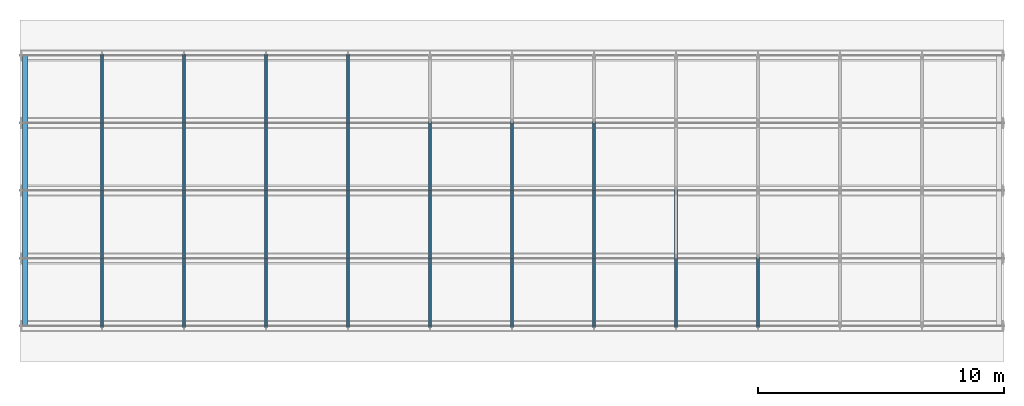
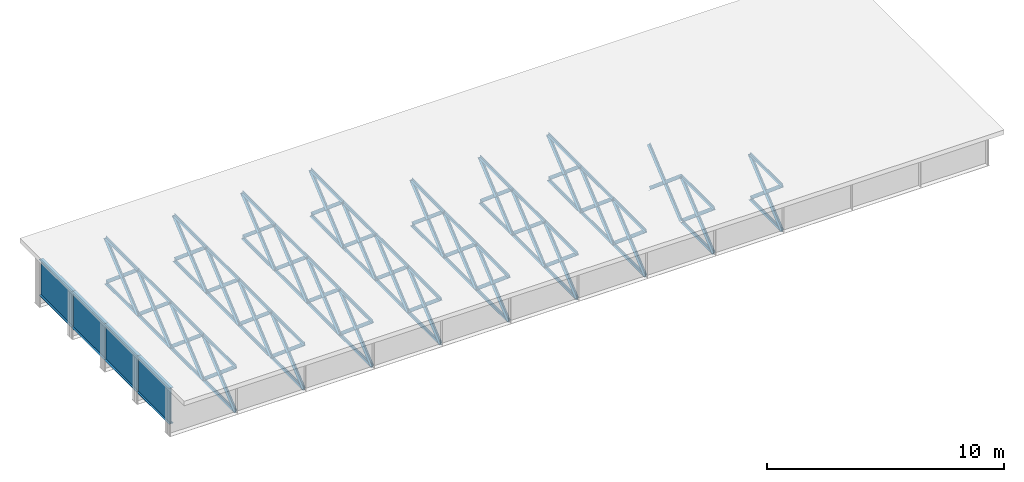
# One storey, part 1 of 19: 114 members.
"""IFC4 building model written with IfcOpenShell, lengths in metres."""

from ifc_helpers import new_model, si_unit, frame, origin, origin_with_axes, origin_2d_with_axis, place, context, subcontext, project, spatial, i_section, l_section, extrude, element, save


model = new_model("IFC4")

# Units and contexts
model_context = context("Model", 3, precision=1e-05, world=origin())
body_context = subcontext(model_context, "Body", "Model", "MODEL_VIEW")
ifc_project = project(units=[si_unit("LENGTHUNIT", "METRE"), si_unit("AREAUNIT", "SQUARE_METRE"), si_unit("VOLUMEUNIT", "CUBIC_METRE"), si_unit("PLANEANGLEUNIT", "RADIAN")], contexts=[model_context])

# Site, building, storey
site_placement = place(None, origin_with_axes())
site = spatial("IfcSite", under=ifc_project, at=site_placement, Name="Default Site")
building_placement = place(site_placement, origin_with_axes())
building = spatial("IfcBuilding", under=site, at=building_placement, Name="Bridge Structure")
storey_placement = place(building_placement, origin_with_axes())
storey = spatial("IfcBuildingStorey", under=building, at=storey_placement, Name="Superstructure")

# Members
for number, where, z_axis, x_axis, name in (
    (1, (0.2, -5.5, 0.2315), (0.0, 1.0, 0.0), (-1.0, 0.0, 0.0), "End Diaphragm"),
    (2, (0.2, -2.75, 0.2315), (0.0, 1.0, 0.0), (-1.0, 0.0, 0.0), "End Diaphragm"),
    (3, (0.2, 0.0, 0.2315), (0.0, 1.0, 0.0), (-1.0, 0.0, 0.0), "End Diaphragm"),
    (4, (0.2, 2.75, 0.2315), (0.0, 1.0, 0.0), (-1.0, 0.0, 0.0), "End Diaphragm"),
):
    element("IfcMember", number, at=place(storey_placement, frame(where, z_axis=z_axis, x_axis=x_axis)), inside=storey, Name=name, context=body_context, shape_type="SweptSolid", body=[
        extrude(i_section(OverallWidth=0.21, OverallDepth=1.851, WebThickness=0.016, FlangeThickness=0.012, at=origin_2d_with_axis()), origin_with_axes(), (0.0, 0.0, 1.0), 2.75),
    ])
for number, where, z_axis, x_axis, name in (
    (5, (3.3333333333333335, -5.5, 1.157), (0.0, 0.765156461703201, -0.6438443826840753), (-1.0, 0.0, 0.0), "Diagonal Brace"),
    (6, (3.3333333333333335, -5.5, -1.157), (0.0, 0.765156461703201, 0.6438443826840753), (-1.0, 0.0, 0.0), "Diagonal Brace"),
):
    element("IfcMember", number, at=place(storey_placement, frame(where, z_axis=z_axis, x_axis=x_axis)), inside=storey, Name=name, context=body_context, shape_type="SweptSolid", body=[
        extrude(l_section(Depth=0.17300000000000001, Width=0.115, Thickness=0.008, at=origin_2d_with_axis()), origin_with_axes(), (0.0, 0.0, 1.0), 3.594036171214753),
    ])
for number, where, z_axis, x_axis, name in (
    (7, (3.3333333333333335, -5.5, -1.157), (0.0, 1.0, 0.0), (-1.0, 0.0, 0.0), "Bottom Chord"),
    (8, (3.3333333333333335, -5.5, 1.157), (0.0, 1.0, 0.0), (-1.0, 0.0, 0.0), "Top Chord"),
):
    element("IfcMember", number, at=place(storey_placement, frame(where, z_axis=z_axis, x_axis=x_axis)), inside=storey, Name=name, context=body_context, shape_type="SweptSolid", body=[
        extrude(l_section(Depth=0.15, Width=0.092, Thickness=0.008, at=origin_2d_with_axis()), origin_with_axes(), (0.0, 0.0, 1.0), 2.75),
    ])
for number, where, z_axis, x_axis, name in (
    (9, (3.3333333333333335, -2.75, 1.157), (0.0, 0.765156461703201, -0.6438443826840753), (-1.0, 0.0, 0.0), "Diagonal Brace"),
    (10, (3.3333333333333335, -2.75, -1.157), (0.0, 0.765156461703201, 0.6438443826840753), (-1.0, 0.0, 0.0), "Diagonal Brace"),
):
    element("IfcMember", number, at=place(storey_placement, frame(where, z_axis=z_axis, x_axis=x_axis)), inside=storey, Name=name, context=body_context, shape_type="SweptSolid", body=[
        extrude(l_section(Depth=0.17300000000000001, Width=0.115, Thickness=0.008, at=origin_2d_with_axis()), origin_with_axes(), (0.0, 0.0, 1.0), 3.594036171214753),
    ])
for number, where, z_axis, x_axis, name in (
    (11, (3.3333333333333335, -2.75, -1.157), (0.0, 1.0, 0.0), (-1.0, 0.0, 0.0), "Bottom Chord"),
    (12, (3.3333333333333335, -2.75, 1.157), (0.0, 1.0, 0.0), (-1.0, 0.0, 0.0), "Top Chord"),
):
    element("IfcMember", number, at=place(storey_placement, frame(where, z_axis=z_axis, x_axis=x_axis)), inside=storey, Name=name, context=body_context, shape_type="SweptSolid", body=[
        extrude(l_section(Depth=0.15, Width=0.092, Thickness=0.008, at=origin_2d_with_axis()), origin_with_axes(), (0.0, 0.0, 1.0), 2.75),
    ])
for number, where, z_axis, x_axis, name in (
    (13, (3.3333333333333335, 0.0, 1.157), (0.0, 0.765156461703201, -0.6438443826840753), (-1.0, 0.0, 0.0), "Diagonal Brace"),
    (14, (3.3333333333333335, 0.0, -1.157), (0.0, 0.765156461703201, 0.6438443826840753), (-1.0, 0.0, 0.0), "Diagonal Brace"),
):
    element("IfcMember", number, at=place(storey_placement, frame(where, z_axis=z_axis, x_axis=x_axis)), inside=storey, Name=name, context=body_context, shape_type="SweptSolid", body=[
        extrude(l_section(Depth=0.17300000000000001, Width=0.115, Thickness=0.008, at=origin_2d_with_axis()), origin_with_axes(), (0.0, 0.0, 1.0), 3.594036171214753),
    ])
for number, where, z_axis, x_axis, name in (
    (15, (3.3333333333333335, 0.0, -1.157), (0.0, 1.0, 0.0), (-1.0, 0.0, 0.0), "Bottom Chord"),
    (16, (3.3333333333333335, 0.0, 1.157), (0.0, 1.0, 0.0), (-1.0, 0.0, 0.0), "Top Chord"),
):
    element("IfcMember", number, at=place(storey_placement, frame(where, z_axis=z_axis, x_axis=x_axis)), inside=storey, Name=name, context=body_context, shape_type="SweptSolid", body=[
        extrude(l_section(Depth=0.15, Width=0.092, Thickness=0.008, at=origin_2d_with_axis()), origin_with_axes(), (0.0, 0.0, 1.0), 2.75),
    ])
for number, where, z_axis, x_axis, name in (
    (17, (3.3333333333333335, 2.75, 1.157), (0.0, 0.765156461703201, -0.6438443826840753), (-1.0, 0.0, 0.0), "Diagonal Brace"),
    (18, (3.3333333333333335, 2.75, -1.157), (0.0, 0.765156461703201, 0.6438443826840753), (-1.0, 0.0, 0.0), "Diagonal Brace"),
):
    element("IfcMember", number, at=place(storey_placement, frame(where, z_axis=z_axis, x_axis=x_axis)), inside=storey, Name=name, context=body_context, shape_type="SweptSolid", body=[
        extrude(l_section(Depth=0.17300000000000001, Width=0.115, Thickness=0.008, at=origin_2d_with_axis()), origin_with_axes(), (0.0, 0.0, 1.0), 3.594036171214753),
    ])
for number, where, z_axis, x_axis, name in (
    (19, (3.3333333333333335, 2.75, -1.157), (0.0, 1.0, 0.0), (-1.0, 0.0, 0.0), "Bottom Chord"),
    (20, (3.3333333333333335, 2.75, 1.157), (0.0, 1.0, 0.0), (-1.0, 0.0, 0.0), "Top Chord"),
):
    element("IfcMember", number, at=place(storey_placement, frame(where, z_axis=z_axis, x_axis=x_axis)), inside=storey, Name=name, context=body_context, shape_type="SweptSolid", body=[
        extrude(l_section(Depth=0.15, Width=0.092, Thickness=0.008, at=origin_2d_with_axis()), origin_with_axes(), (0.0, 0.0, 1.0), 2.75),
    ])
for number, where, z_axis, x_axis, name in (
    (21, (6.666666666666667, -5.5, 1.157), (0.0, 0.765156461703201, -0.6438443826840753), (-1.0, 0.0, 0.0), "Diagonal Brace"),
    (22, (6.666666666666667, -5.5, -1.157), (0.0, 0.765156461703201, 0.6438443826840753), (-1.0, 0.0, 0.0), "Diagonal Brace"),
):
    element("IfcMember", number, at=place(storey_placement, frame(where, z_axis=z_axis, x_axis=x_axis)), inside=storey, Name=name, context=body_context, shape_type="SweptSolid", body=[
        extrude(l_section(Depth=0.17300000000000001, Width=0.115, Thickness=0.008, at=origin_2d_with_axis()), origin_with_axes(), (0.0, 0.0, 1.0), 3.594036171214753),
    ])
for number, where, z_axis, x_axis, name in (
    (23, (6.666666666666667, -5.5, -1.157), (0.0, 1.0, 0.0), (-1.0, 0.0, 0.0), "Bottom Chord"),
    (24, (6.666666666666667, -5.5, 1.157), (0.0, 1.0, 0.0), (-1.0, 0.0, 0.0), "Top Chord"),
):
    element("IfcMember", number, at=place(storey_placement, frame(where, z_axis=z_axis, x_axis=x_axis)), inside=storey, Name=name, context=body_context, shape_type="SweptSolid", body=[
        extrude(l_section(Depth=0.15, Width=0.092, Thickness=0.008, at=origin_2d_with_axis()), origin_with_axes(), (0.0, 0.0, 1.0), 2.75),
    ])
for number, where, z_axis, x_axis, name in (
    (25, (6.666666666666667, -2.75, 1.157), (0.0, 0.765156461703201, -0.6438443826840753), (-1.0, 0.0, 0.0), "Diagonal Brace"),
    (26, (6.666666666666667, -2.75, -1.157), (0.0, 0.765156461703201, 0.6438443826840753), (-1.0, 0.0, 0.0), "Diagonal Brace"),
):
    element("IfcMember", number, at=place(storey_placement, frame(where, z_axis=z_axis, x_axis=x_axis)), inside=storey, Name=name, context=body_context, shape_type="SweptSolid", body=[
        extrude(l_section(Depth=0.17300000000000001, Width=0.115, Thickness=0.008, at=origin_2d_with_axis()), origin_with_axes(), (0.0, 0.0, 1.0), 3.594036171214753),
    ])
for number, where, z_axis, x_axis, name in (
    (27, (6.666666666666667, -2.75, -1.157), (0.0, 1.0, 0.0), (-1.0, 0.0, 0.0), "Bottom Chord"),
    (28, (6.666666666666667, -2.75, 1.157), (0.0, 1.0, 0.0), (-1.0, 0.0, 0.0), "Top Chord"),
):
    element("IfcMember", number, at=place(storey_placement, frame(where, z_axis=z_axis, x_axis=x_axis)), inside=storey, Name=name, context=body_context, shape_type="SweptSolid", body=[
        extrude(l_section(Depth=0.15, Width=0.092, Thickness=0.008, at=origin_2d_with_axis()), origin_with_axes(), (0.0, 0.0, 1.0), 2.75),
    ])
for number, where, z_axis, x_axis, name in (
    (29, (6.666666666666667, 0.0, 1.157), (0.0, 0.765156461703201, -0.6438443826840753), (-1.0, 0.0, 0.0), "Diagonal Brace"),
    (30, (6.666666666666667, 0.0, -1.157), (0.0, 0.765156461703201, 0.6438443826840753), (-1.0, 0.0, 0.0), "Diagonal Brace"),
):
    element("IfcMember", number, at=place(storey_placement, frame(where, z_axis=z_axis, x_axis=x_axis)), inside=storey, Name=name, context=body_context, shape_type="SweptSolid", body=[
        extrude(l_section(Depth=0.17300000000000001, Width=0.115, Thickness=0.008, at=origin_2d_with_axis()), origin_with_axes(), (0.0, 0.0, 1.0), 3.594036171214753),
    ])
for number, where, z_axis, x_axis, name in (
    (31, (6.666666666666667, 0.0, -1.157), (0.0, 1.0, 0.0), (-1.0, 0.0, 0.0), "Bottom Chord"),
    (32, (6.666666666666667, 0.0, 1.157), (0.0, 1.0, 0.0), (-1.0, 0.0, 0.0), "Top Chord"),
):
    element("IfcMember", number, at=place(storey_placement, frame(where, z_axis=z_axis, x_axis=x_axis)), inside=storey, Name=name, context=body_context, shape_type="SweptSolid", body=[
        extrude(l_section(Depth=0.15, Width=0.092, Thickness=0.008, at=origin_2d_with_axis()), origin_with_axes(), (0.0, 0.0, 1.0), 2.75),
    ])
for number, where, z_axis, x_axis, name in (
    (33, (6.666666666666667, 2.75, 1.157), (0.0, 0.765156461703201, -0.6438443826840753), (-1.0, 0.0, 0.0), "Diagonal Brace"),
    (34, (6.666666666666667, 2.75, -1.157), (0.0, 0.765156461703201, 0.6438443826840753), (-1.0, 0.0, 0.0), "Diagonal Brace"),
):
    element("IfcMember", number, at=place(storey_placement, frame(where, z_axis=z_axis, x_axis=x_axis)), inside=storey, Name=name, context=body_context, shape_type="SweptSolid", body=[
        extrude(l_section(Depth=0.17300000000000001, Width=0.115, Thickness=0.008, at=origin_2d_with_axis()), origin_with_axes(), (0.0, 0.0, 1.0), 3.594036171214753),
    ])
for number, where, z_axis, x_axis, name in (
    (35, (6.666666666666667, 2.75, -1.157), (0.0, 1.0, 0.0), (-1.0, 0.0, 0.0), "Bottom Chord"),
    (36, (6.666666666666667, 2.75, 1.157), (0.0, 1.0, 0.0), (-1.0, 0.0, 0.0), "Top Chord"),
):
    element("IfcMember", number, at=place(storey_placement, frame(where, z_axis=z_axis, x_axis=x_axis)), inside=storey, Name=name, context=body_context, shape_type="SweptSolid", body=[
        extrude(l_section(Depth=0.15, Width=0.092, Thickness=0.008, at=origin_2d_with_axis()), origin_with_axes(), (0.0, 0.0, 1.0), 2.75),
    ])
for number, where, z_axis, x_axis, name in (
    (37, (10.0, -5.5, 1.157), (0.0, 0.765156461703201, -0.6438443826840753), (-1.0, 0.0, 0.0), "Diagonal Brace"),
    (38, (10.0, -5.5, -1.157), (0.0, 0.765156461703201, 0.6438443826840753), (-1.0, 0.0, 0.0), "Diagonal Brace"),
):
    element("IfcMember", number, at=place(storey_placement, frame(where, z_axis=z_axis, x_axis=x_axis)), inside=storey, Name=name, context=body_context, shape_type="SweptSolid", body=[
        extrude(l_section(Depth=0.17300000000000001, Width=0.115, Thickness=0.008, at=origin_2d_with_axis()), origin_with_axes(), (0.0, 0.0, 1.0), 3.594036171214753),
    ])
for number, where, z_axis, x_axis, name in (
    (39, (10.0, -5.5, -1.157), (0.0, 1.0, 0.0), (-1.0, 0.0, 0.0), "Bottom Chord"),
    (40, (10.0, -5.5, 1.157), (0.0, 1.0, 0.0), (-1.0, 0.0, 0.0), "Top Chord"),
):
    element("IfcMember", number, at=place(storey_placement, frame(where, z_axis=z_axis, x_axis=x_axis)), inside=storey, Name=name, context=body_context, shape_type="SweptSolid", body=[
        extrude(l_section(Depth=0.15, Width=0.092, Thickness=0.008, at=origin_2d_with_axis()), origin_with_axes(), (0.0, 0.0, 1.0), 2.75),
    ])
for number, where, z_axis, x_axis, name in (
    (41, (10.0, -2.75, 1.157), (0.0, 0.765156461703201, -0.6438443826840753), (-1.0, 0.0, 0.0), "Diagonal Brace"),
    (42, (10.0, -2.75, -1.157), (0.0, 0.765156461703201, 0.6438443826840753), (-1.0, 0.0, 0.0), "Diagonal Brace"),
):
    element("IfcMember", number, at=place(storey_placement, frame(where, z_axis=z_axis, x_axis=x_axis)), inside=storey, Name=name, context=body_context, shape_type="SweptSolid", body=[
        extrude(l_section(Depth=0.17300000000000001, Width=0.115, Thickness=0.008, at=origin_2d_with_axis()), origin_with_axes(), (0.0, 0.0, 1.0), 3.594036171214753),
    ])
for number, where, z_axis, x_axis, name in (
    (43, (10.0, -2.75, -1.157), (0.0, 1.0, 0.0), (-1.0, 0.0, 0.0), "Bottom Chord"),
    (44, (10.0, -2.75, 1.157), (0.0, 1.0, 0.0), (-1.0, 0.0, 0.0), "Top Chord"),
):
    element("IfcMember", number, at=place(storey_placement, frame(where, z_axis=z_axis, x_axis=x_axis)), inside=storey, Name=name, context=body_context, shape_type="SweptSolid", body=[
        extrude(l_section(Depth=0.15, Width=0.092, Thickness=0.008, at=origin_2d_with_axis()), origin_with_axes(), (0.0, 0.0, 1.0), 2.75),
    ])
for number, where, z_axis, x_axis, name in (
    (45, (10.0, 0.0, 1.157), (0.0, 0.765156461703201, -0.6438443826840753), (-1.0, 0.0, 0.0), "Diagonal Brace"),
    (46, (10.0, 0.0, -1.157), (0.0, 0.765156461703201, 0.6438443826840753), (-1.0, 0.0, 0.0), "Diagonal Brace"),
):
    element("IfcMember", number, at=place(storey_placement, frame(where, z_axis=z_axis, x_axis=x_axis)), inside=storey, Name=name, context=body_context, shape_type="SweptSolid", body=[
        extrude(l_section(Depth=0.17300000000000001, Width=0.115, Thickness=0.008, at=origin_2d_with_axis()), origin_with_axes(), (0.0, 0.0, 1.0), 3.594036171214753),
    ])
for number, where, z_axis, x_axis, name in (
    (47, (10.0, 0.0, -1.157), (0.0, 1.0, 0.0), (-1.0, 0.0, 0.0), "Bottom Chord"),
    (48, (10.0, 0.0, 1.157), (0.0, 1.0, 0.0), (-1.0, 0.0, 0.0), "Top Chord"),
):
    element("IfcMember", number, at=place(storey_placement, frame(where, z_axis=z_axis, x_axis=x_axis)), inside=storey, Name=name, context=body_context, shape_type="SweptSolid", body=[
        extrude(l_section(Depth=0.15, Width=0.092, Thickness=0.008, at=origin_2d_with_axis()), origin_with_axes(), (0.0, 0.0, 1.0), 2.75),
    ])
for number, where, z_axis, x_axis, name in (
    (49, (10.0, 2.75, 1.157), (0.0, 0.765156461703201, -0.6438443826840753), (-1.0, 0.0, 0.0), "Diagonal Brace"),
    (50, (10.0, 2.75, -1.157), (0.0, 0.765156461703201, 0.6438443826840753), (-1.0, 0.0, 0.0), "Diagonal Brace"),
):
    element("IfcMember", number, at=place(storey_placement, frame(where, z_axis=z_axis, x_axis=x_axis)), inside=storey, Name=name, context=body_context, shape_type="SweptSolid", body=[
        extrude(l_section(Depth=0.17300000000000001, Width=0.115, Thickness=0.008, at=origin_2d_with_axis()), origin_with_axes(), (0.0, 0.0, 1.0), 3.594036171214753),
    ])
for number, where, z_axis, x_axis, name in (
    (51, (10.0, 2.75, -1.157), (0.0, 1.0, 0.0), (-1.0, 0.0, 0.0), "Bottom Chord"),
    (52, (10.0, 2.75, 1.157), (0.0, 1.0, 0.0), (-1.0, 0.0, 0.0), "Top Chord"),
):
    element("IfcMember", number, at=place(storey_placement, frame(where, z_axis=z_axis, x_axis=x_axis)), inside=storey, Name=name, context=body_context, shape_type="SweptSolid", body=[
        extrude(l_section(Depth=0.15, Width=0.092, Thickness=0.008, at=origin_2d_with_axis()), origin_with_axes(), (0.0, 0.0, 1.0), 2.75),
    ])
for number, where, z_axis, x_axis, name in (
    (53, (13.333333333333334, -5.5, 1.157), (0.0, 0.765156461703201, -0.6438443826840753), (-1.0, 0.0, 0.0), "Diagonal Brace"),
    (54, (13.333333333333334, -5.5, -1.157), (0.0, 0.765156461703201, 0.6438443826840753), (-1.0, 0.0, 0.0), "Diagonal Brace"),
):
    element("IfcMember", number, at=place(storey_placement, frame(where, z_axis=z_axis, x_axis=x_axis)), inside=storey, Name=name, context=body_context, shape_type="SweptSolid", body=[
        extrude(l_section(Depth=0.17300000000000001, Width=0.115, Thickness=0.008, at=origin_2d_with_axis()), origin_with_axes(), (0.0, 0.0, 1.0), 3.594036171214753),
    ])
for number, where, z_axis, x_axis, name in (
    (55, (13.333333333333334, -5.5, -1.157), (0.0, 1.0, 0.0), (-1.0, 0.0, 0.0), "Bottom Chord"),
    (56, (13.333333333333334, -5.5, 1.157), (0.0, 1.0, 0.0), (-1.0, 0.0, 0.0), "Top Chord"),
):
    element("IfcMember", number, at=place(storey_placement, frame(where, z_axis=z_axis, x_axis=x_axis)), inside=storey, Name=name, context=body_context, shape_type="SweptSolid", body=[
        extrude(l_section(Depth=0.15, Width=0.092, Thickness=0.008, at=origin_2d_with_axis()), origin_with_axes(), (0.0, 0.0, 1.0), 2.75),
    ])
for number, where, z_axis, x_axis, name in (
    (57, (13.333333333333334, -2.75, 1.157), (0.0, 0.765156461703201, -0.6438443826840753), (-1.0, 0.0, 0.0), "Diagonal Brace"),
    (58, (13.333333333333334, -2.75, -1.157), (0.0, 0.765156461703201, 0.6438443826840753), (-1.0, 0.0, 0.0), "Diagonal Brace"),
):
    element("IfcMember", number, at=place(storey_placement, frame(where, z_axis=z_axis, x_axis=x_axis)), inside=storey, Name=name, context=body_context, shape_type="SweptSolid", body=[
        extrude(l_section(Depth=0.17300000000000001, Width=0.115, Thickness=0.008, at=origin_2d_with_axis()), origin_with_axes(), (0.0, 0.0, 1.0), 3.594036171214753),
    ])
for number, where, z_axis, x_axis, name in (
    (59, (13.333333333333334, -2.75, -1.157), (0.0, 1.0, 0.0), (-1.0, 0.0, 0.0), "Bottom Chord"),
    (60, (13.333333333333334, -2.75, 1.157), (0.0, 1.0, 0.0), (-1.0, 0.0, 0.0), "Top Chord"),
):
    element("IfcMember", number, at=place(storey_placement, frame(where, z_axis=z_axis, x_axis=x_axis)), inside=storey, Name=name, context=body_context, shape_type="SweptSolid", body=[
        extrude(l_section(Depth=0.15, Width=0.092, Thickness=0.008, at=origin_2d_with_axis()), origin_with_axes(), (0.0, 0.0, 1.0), 2.75),
    ])
for number, where, z_axis, x_axis, name in (
    (61, (13.333333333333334, 0.0, 1.157), (0.0, 0.765156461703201, -0.6438443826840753), (-1.0, 0.0, 0.0), "Diagonal Brace"),
    (62, (13.333333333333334, 0.0, -1.157), (0.0, 0.765156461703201, 0.6438443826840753), (-1.0, 0.0, 0.0), "Diagonal Brace"),
):
    element("IfcMember", number, at=place(storey_placement, frame(where, z_axis=z_axis, x_axis=x_axis)), inside=storey, Name=name, context=body_context, shape_type="SweptSolid", body=[
        extrude(l_section(Depth=0.17300000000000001, Width=0.115, Thickness=0.008, at=origin_2d_with_axis()), origin_with_axes(), (0.0, 0.0, 1.0), 3.594036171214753),
    ])
for number, where, z_axis, x_axis, name in (
    (63, (13.333333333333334, 0.0, -1.157), (0.0, 1.0, 0.0), (-1.0, 0.0, 0.0), "Bottom Chord"),
    (64, (13.333333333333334, 0.0, 1.157), (0.0, 1.0, 0.0), (-1.0, 0.0, 0.0), "Top Chord"),
):
    element("IfcMember", number, at=place(storey_placement, frame(where, z_axis=z_axis, x_axis=x_axis)), inside=storey, Name=name, context=body_context, shape_type="SweptSolid", body=[
        extrude(l_section(Depth=0.15, Width=0.092, Thickness=0.008, at=origin_2d_with_axis()), origin_with_axes(), (0.0, 0.0, 1.0), 2.75),
    ])
for number, where, z_axis, x_axis, name in (
    (65, (13.333333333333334, 2.75, 1.157), (0.0, 0.765156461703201, -0.6438443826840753), (-1.0, 0.0, 0.0), "Diagonal Brace"),
    (66, (13.333333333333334, 2.75, -1.157), (0.0, 0.765156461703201, 0.6438443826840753), (-1.0, 0.0, 0.0), "Diagonal Brace"),
):
    element("IfcMember", number, at=place(storey_placement, frame(where, z_axis=z_axis, x_axis=x_axis)), inside=storey, Name=name, context=body_context, shape_type="SweptSolid", body=[
        extrude(l_section(Depth=0.17300000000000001, Width=0.115, Thickness=0.008, at=origin_2d_with_axis()), origin_with_axes(), (0.0, 0.0, 1.0), 3.594036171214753),
    ])
for number, where, z_axis, x_axis, name in (
    (67, (13.333333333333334, 2.75, -1.157), (0.0, 1.0, 0.0), (-1.0, 0.0, 0.0), "Bottom Chord"),
    (68, (13.333333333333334, 2.75, 1.157), (0.0, 1.0, 0.0), (-1.0, 0.0, 0.0), "Top Chord"),
):
    element("IfcMember", number, at=place(storey_placement, frame(where, z_axis=z_axis, x_axis=x_axis)), inside=storey, Name=name, context=body_context, shape_type="SweptSolid", body=[
        extrude(l_section(Depth=0.15, Width=0.092, Thickness=0.008, at=origin_2d_with_axis()), origin_with_axes(), (0.0, 0.0, 1.0), 2.75),
    ])
for number, where, z_axis, x_axis, name in (
    (69, (16.666666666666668, -5.5, 1.157), (0.0, 0.765156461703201, -0.6438443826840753), (-1.0, 0.0, 0.0), "Diagonal Brace"),
    (70, (16.666666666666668, -5.5, -1.157), (0.0, 0.765156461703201, 0.6438443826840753), (-1.0, 0.0, 0.0), "Diagonal Brace"),
):
    element("IfcMember", number, at=place(storey_placement, frame(where, z_axis=z_axis, x_axis=x_axis)), inside=storey, Name=name, context=body_context, shape_type="SweptSolid", body=[
        extrude(l_section(Depth=0.17300000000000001, Width=0.115, Thickness=0.008, at=origin_2d_with_axis()), origin_with_axes(), (0.0, 0.0, 1.0), 3.594036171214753),
    ])
for number, where, z_axis, x_axis, name in (
    (71, (16.666666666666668, -5.5, -1.157), (0.0, 1.0, 0.0), (-1.0, 0.0, 0.0), "Bottom Chord"),
    (72, (16.666666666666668, -5.5, 1.157), (0.0, 1.0, 0.0), (-1.0, 0.0, 0.0), "Top Chord"),
):
    element("IfcMember", number, at=place(storey_placement, frame(where, z_axis=z_axis, x_axis=x_axis)), inside=storey, Name=name, context=body_context, shape_type="SweptSolid", body=[
        extrude(l_section(Depth=0.15, Width=0.092, Thickness=0.008, at=origin_2d_with_axis()), origin_with_axes(), (0.0, 0.0, 1.0), 2.75),
    ])
for number, where, z_axis, x_axis, name in (
    (73, (16.666666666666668, -2.75, 1.157), (0.0, 0.765156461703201, -0.6438443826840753), (-1.0, 0.0, 0.0), "Diagonal Brace"),
    (74, (16.666666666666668, -2.75, -1.157), (0.0, 0.765156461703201, 0.6438443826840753), (-1.0, 0.0, 0.0), "Diagonal Brace"),
):
    element("IfcMember", number, at=place(storey_placement, frame(where, z_axis=z_axis, x_axis=x_axis)), inside=storey, Name=name, context=body_context, shape_type="SweptSolid", body=[
        extrude(l_section(Depth=0.17300000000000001, Width=0.115, Thickness=0.008, at=origin_2d_with_axis()), origin_with_axes(), (0.0, 0.0, 1.0), 3.594036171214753),
    ])
for number, where, z_axis, x_axis, name in (
    (75, (16.666666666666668, -2.75, -1.157), (0.0, 1.0, 0.0), (-1.0, 0.0, 0.0), "Bottom Chord"),
    (76, (16.666666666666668, -2.75, 1.157), (0.0, 1.0, 0.0), (-1.0, 0.0, 0.0), "Top Chord"),
):
    element("IfcMember", number, at=place(storey_placement, frame(where, z_axis=z_axis, x_axis=x_axis)), inside=storey, Name=name, context=body_context, shape_type="SweptSolid", body=[
        extrude(l_section(Depth=0.15, Width=0.092, Thickness=0.008, at=origin_2d_with_axis()), origin_with_axes(), (0.0, 0.0, 1.0), 2.75),
    ])
for number, where, z_axis, x_axis, name in (
    (77, (16.666666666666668, 0.0, 1.157), (0.0, 0.765156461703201, -0.6438443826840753), (-1.0, 0.0, 0.0), "Diagonal Brace"),
    (78, (16.666666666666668, 0.0, -1.157), (0.0, 0.765156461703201, 0.6438443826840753), (-1.0, 0.0, 0.0), "Diagonal Brace"),
):
    element("IfcMember", number, at=place(storey_placement, frame(where, z_axis=z_axis, x_axis=x_axis)), inside=storey, Name=name, context=body_context, shape_type="SweptSolid", body=[
        extrude(l_section(Depth=0.17300000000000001, Width=0.115, Thickness=0.008, at=origin_2d_with_axis()), origin_with_axes(), (0.0, 0.0, 1.0), 3.594036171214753),
    ])
for number, where, z_axis, x_axis, name in (
    (79, (16.666666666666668, 0.0, -1.157), (0.0, 1.0, 0.0), (-1.0, 0.0, 0.0), "Bottom Chord"),
    (80, (16.666666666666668, 0.0, 1.157), (0.0, 1.0, 0.0), (-1.0, 0.0, 0.0), "Top Chord"),
):
    element("IfcMember", number, at=place(storey_placement, frame(where, z_axis=z_axis, x_axis=x_axis)), inside=storey, Name=name, context=body_context, shape_type="SweptSolid", body=[
        extrude(l_section(Depth=0.15, Width=0.092, Thickness=0.008, at=origin_2d_with_axis()), origin_with_axes(), (0.0, 0.0, 1.0), 2.75),
    ])
for number, where, z_axis, x_axis, name in (
    (81, (20.0, -5.5, 1.157), (0.0, 0.765156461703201, -0.6438443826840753), (-1.0, 0.0, 0.0), "Diagonal Brace"),
    (82, (20.0, -5.5, -1.157), (0.0, 0.765156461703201, 0.6438443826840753), (-1.0, 0.0, 0.0), "Diagonal Brace"),
):
    element("IfcMember", number, at=place(storey_placement, frame(where, z_axis=z_axis, x_axis=x_axis)), inside=storey, Name=name, context=body_context, shape_type="SweptSolid", body=[
        extrude(l_section(Depth=0.17300000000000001, Width=0.115, Thickness=0.008, at=origin_2d_with_axis()), origin_with_axes(), (0.0, 0.0, 1.0), 3.594036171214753),
    ])
for number, where, z_axis, x_axis, name in (
    (83, (20.0, -5.5, -1.157), (0.0, 1.0, 0.0), (-1.0, 0.0, 0.0), "Bottom Chord"),
    (84, (20.0, -5.5, 1.157), (0.0, 1.0, 0.0), (-1.0, 0.0, 0.0), "Top Chord"),
):
    element("IfcMember", number, at=place(storey_placement, frame(where, z_axis=z_axis, x_axis=x_axis)), inside=storey, Name=name, context=body_context, shape_type="SweptSolid", body=[
        extrude(l_section(Depth=0.15, Width=0.092, Thickness=0.008, at=origin_2d_with_axis()), origin_with_axes(), (0.0, 0.0, 1.0), 2.75),
    ])
for number, where, z_axis, x_axis, name in (
    (85, (20.0, -2.75, 1.157), (0.0, 0.765156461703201, -0.6438443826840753), (-1.0, 0.0, 0.0), "Diagonal Brace"),
    (86, (20.0, -2.75, -1.157), (0.0, 0.765156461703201, 0.6438443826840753), (-1.0, 0.0, 0.0), "Diagonal Brace"),
):
    element("IfcMember", number, at=place(storey_placement, frame(where, z_axis=z_axis, x_axis=x_axis)), inside=storey, Name=name, context=body_context, shape_type="SweptSolid", body=[
        extrude(l_section(Depth=0.17300000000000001, Width=0.115, Thickness=0.008, at=origin_2d_with_axis()), origin_with_axes(), (0.0, 0.0, 1.0), 3.594036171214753),
    ])
for number, where, z_axis, x_axis, name in (
    (87, (20.0, -2.75, -1.157), (0.0, 1.0, 0.0), (-1.0, 0.0, 0.0), "Bottom Chord"),
    (88, (20.0, -2.75, 1.157), (0.0, 1.0, 0.0), (-1.0, 0.0, 0.0), "Top Chord"),
):
    element("IfcMember", number, at=place(storey_placement, frame(where, z_axis=z_axis, x_axis=x_axis)), inside=storey, Name=name, context=body_context, shape_type="SweptSolid", body=[
        extrude(l_section(Depth=0.15, Width=0.092, Thickness=0.008, at=origin_2d_with_axis()), origin_with_axes(), (0.0, 0.0, 1.0), 2.75),
    ])
for number, where, z_axis, x_axis, name in (
    (89, (20.0, 0.0, 1.157), (0.0, 0.765156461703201, -0.6438443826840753), (-1.0, 0.0, 0.0), "Diagonal Brace"),
    (90, (20.0, 0.0, -1.157), (0.0, 0.765156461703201, 0.6438443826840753), (-1.0, 0.0, 0.0), "Diagonal Brace"),
):
    element("IfcMember", number, at=place(storey_placement, frame(where, z_axis=z_axis, x_axis=x_axis)), inside=storey, Name=name, context=body_context, shape_type="SweptSolid", body=[
        extrude(l_section(Depth=0.17300000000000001, Width=0.115, Thickness=0.008, at=origin_2d_with_axis()), origin_with_axes(), (0.0, 0.0, 1.0), 3.594036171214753),
    ])
for number, where, z_axis, x_axis, name in (
    (91, (20.0, 0.0, -1.157), (0.0, 1.0, 0.0), (-1.0, 0.0, 0.0), "Bottom Chord"),
    (92, (20.0, 0.0, 1.157), (0.0, 1.0, 0.0), (-1.0, 0.0, 0.0), "Top Chord"),
):
    element("IfcMember", number, at=place(storey_placement, frame(where, z_axis=z_axis, x_axis=x_axis)), inside=storey, Name=name, context=body_context, shape_type="SweptSolid", body=[
        extrude(l_section(Depth=0.15, Width=0.092, Thickness=0.008, at=origin_2d_with_axis()), origin_with_axes(), (0.0, 0.0, 1.0), 2.75),
    ])
for number, where, z_axis, x_axis, name in (
    (93, (23.333333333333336, -5.5, 1.157), (0.0, 0.765156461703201, -0.6438443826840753), (-1.0, 0.0, 0.0), "Diagonal Brace"),
    (94, (23.333333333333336, -5.5, -1.157), (0.0, 0.765156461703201, 0.6438443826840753), (-1.0, 0.0, 0.0), "Diagonal Brace"),
):
    element("IfcMember", number, at=place(storey_placement, frame(where, z_axis=z_axis, x_axis=x_axis)), inside=storey, Name=name, context=body_context, shape_type="SweptSolid", body=[
        extrude(l_section(Depth=0.17300000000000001, Width=0.115, Thickness=0.008, at=origin_2d_with_axis()), origin_with_axes(), (0.0, 0.0, 1.0), 3.594036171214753),
    ])
for number, where, z_axis, x_axis, name in (
    (95, (23.333333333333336, -5.5, -1.157), (0.0, 1.0, 0.0), (-1.0, 0.0, 0.0), "Bottom Chord"),
    (96, (23.333333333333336, -5.5, 1.157), (0.0, 1.0, 0.0), (-1.0, 0.0, 0.0), "Top Chord"),
):
    element("IfcMember", number, at=place(storey_placement, frame(where, z_axis=z_axis, x_axis=x_axis)), inside=storey, Name=name, context=body_context, shape_type="SweptSolid", body=[
        extrude(l_section(Depth=0.15, Width=0.092, Thickness=0.008, at=origin_2d_with_axis()), origin_with_axes(), (0.0, 0.0, 1.0), 2.75),
    ])
for number, where, z_axis, x_axis, name in (
    (97, (23.333333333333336, -2.75, 1.157), (0.0, 0.765156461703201, -0.6438443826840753), (-1.0, 0.0, 0.0), "Diagonal Brace"),
    (98, (23.333333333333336, -2.75, -1.157), (0.0, 0.765156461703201, 0.6438443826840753), (-1.0, 0.0, 0.0), "Diagonal Brace"),
):
    element("IfcMember", number, at=place(storey_placement, frame(where, z_axis=z_axis, x_axis=x_axis)), inside=storey, Name=name, context=body_context, shape_type="SweptSolid", body=[
        extrude(l_section(Depth=0.17300000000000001, Width=0.115, Thickness=0.008, at=origin_2d_with_axis()), origin_with_axes(), (0.0, 0.0, 1.0), 3.594036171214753),
    ])
for number, where, z_axis, x_axis, name in (
    (99, (23.333333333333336, -2.75, -1.157), (0.0, 1.0, 0.0), (-1.0, 0.0, 0.0), "Bottom Chord"),
    (100, (23.333333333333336, -2.75, 1.157), (0.0, 1.0, 0.0), (-1.0, 0.0, 0.0), "Top Chord"),
):
    element("IfcMember", number, at=place(storey_placement, frame(where, z_axis=z_axis, x_axis=x_axis)), inside=storey, Name=name, context=body_context, shape_type="SweptSolid", body=[
        extrude(l_section(Depth=0.15, Width=0.092, Thickness=0.008, at=origin_2d_with_axis()), origin_with_axes(), (0.0, 0.0, 1.0), 2.75),
    ])
for number, where, z_axis, x_axis, name in (
    (101, (23.333333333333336, 0.0, 1.157), (0.0, 0.765156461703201, -0.6438443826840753), (-1.0, 0.0, 0.0), "Diagonal Brace"),
    (102, (23.333333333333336, 0.0, -1.157), (0.0, 0.765156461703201, 0.6438443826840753), (-1.0, 0.0, 0.0), "Diagonal Brace"),
):
    element("IfcMember", number, at=place(storey_placement, frame(where, z_axis=z_axis, x_axis=x_axis)), inside=storey, Name=name, context=body_context, shape_type="SweptSolid", body=[
        extrude(l_section(Depth=0.17300000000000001, Width=0.115, Thickness=0.008, at=origin_2d_with_axis()), origin_with_axes(), (0.0, 0.0, 1.0), 3.594036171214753),
    ])
for number, where, z_axis, x_axis, name in (
    (103, (23.333333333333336, 0.0, -1.157), (0.0, 1.0, 0.0), (-1.0, 0.0, 0.0), "Bottom Chord"),
    (104, (23.333333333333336, 0.0, 1.157), (0.0, 1.0, 0.0), (-1.0, 0.0, 0.0), "Top Chord"),
):
    element("IfcMember", number, at=place(storey_placement, frame(where, z_axis=z_axis, x_axis=x_axis)), inside=storey, Name=name, context=body_context, shape_type="SweptSolid", body=[
        extrude(l_section(Depth=0.15, Width=0.092, Thickness=0.008, at=origin_2d_with_axis()), origin_with_axes(), (0.0, 0.0, 1.0), 2.75),
    ])
for number, where, z_axis, x_axis, name in (
    (105, (26.666666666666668, -5.5, 1.157), (0.0, 0.765156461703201, -0.6438443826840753), (-1.0, 0.0, 0.0), "Diagonal Brace"),
    (106, (26.666666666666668, -5.5, -1.157), (0.0, 0.765156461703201, 0.6438443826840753), (-1.0, 0.0, 0.0), "Diagonal Brace"),
):
    element("IfcMember", number, at=place(storey_placement, frame(where, z_axis=z_axis, x_axis=x_axis)), inside=storey, Name=name, context=body_context, shape_type="SweptSolid", body=[
        extrude(l_section(Depth=0.17300000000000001, Width=0.115, Thickness=0.008, at=origin_2d_with_axis()), origin_with_axes(), (0.0, 0.0, 1.0), 3.594036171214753),
    ])
for number, where, z_axis, x_axis, name in (
    (107, (26.666666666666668, -5.5, -1.157), (0.0, 1.0, 0.0), (-1.0, 0.0, 0.0), "Bottom Chord"),
    (108, (26.666666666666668, -5.5, 1.157), (0.0, 1.0, 0.0), (-1.0, 0.0, 0.0), "Top Chord"),
):
    element("IfcMember", number, at=place(storey_placement, frame(where, z_axis=z_axis, x_axis=x_axis)), inside=storey, Name=name, context=body_context, shape_type="SweptSolid", body=[
        extrude(l_section(Depth=0.15, Width=0.092, Thickness=0.008, at=origin_2d_with_axis()), origin_with_axes(), (0.0, 0.0, 1.0), 2.75),
    ])
for number, where, z_axis, x_axis, name in (
    (109, (26.666666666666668, -2.75, 1.157), (0.0, 0.765156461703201, -0.6438443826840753), (-1.0, 0.0, 0.0), "Diagonal Brace"),
    (110, (26.666666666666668, -2.75, -1.157), (0.0, 0.765156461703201, 0.6438443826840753), (-1.0, 0.0, 0.0), "Diagonal Brace"),
    (111, (30.0, -5.5, 1.157), (0.0, 0.765156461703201, -0.6438443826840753), (-1.0, 0.0, 0.0), "Diagonal Brace"),
    (112, (30.0, -5.5, -1.157), (0.0, 0.765156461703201, 0.6438443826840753), (-1.0, 0.0, 0.0), "Diagonal Brace"),
):
    element("IfcMember", number, at=place(storey_placement, frame(where, z_axis=z_axis, x_axis=x_axis)), inside=storey, Name=name, context=body_context, shape_type="SweptSolid", body=[
        extrude(l_section(Depth=0.17300000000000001, Width=0.115, Thickness=0.008, at=origin_2d_with_axis()), origin_with_axes(), (0.0, 0.0, 1.0), 3.594036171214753),
    ])
for number, where, z_axis, x_axis, name in (
    (113, (30.0, -5.5, -1.157), (0.0, 1.0, 0.0), (-1.0, 0.0, 0.0), "Bottom Chord"),
    (114, (30.0, -5.5, 1.157), (0.0, 1.0, 0.0), (-1.0, 0.0, 0.0), "Top Chord"),
):
    element("IfcMember", number, at=place(storey_placement, frame(where, z_axis=z_axis, x_axis=x_axis)), inside=storey, Name=name, context=body_context, shape_type="SweptSolid", body=[
        extrude(l_section(Depth=0.15, Width=0.092, Thickness=0.008, at=origin_2d_with_axis()), origin_with_axes(), (0.0, 0.0, 1.0), 2.75),
    ])

save(model, "model.ifc")
